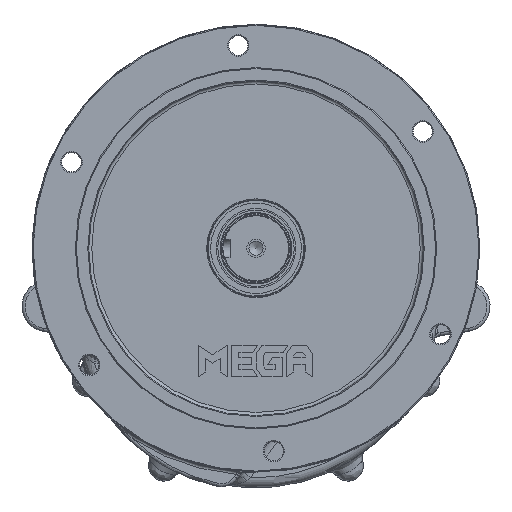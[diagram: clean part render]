
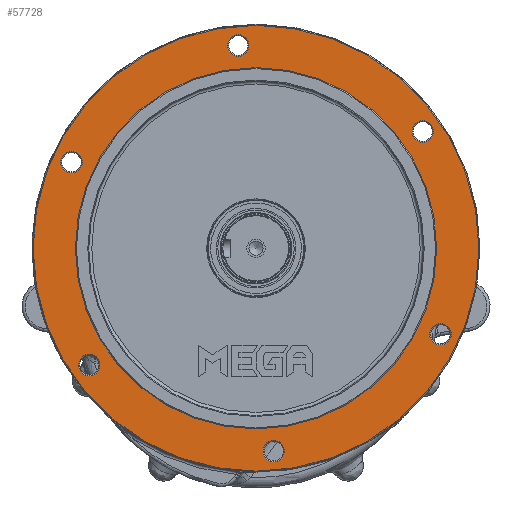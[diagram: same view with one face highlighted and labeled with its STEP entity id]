
A CAD part, front view. The second image highlights one B-rep face of the part: STEP entity #57728.
In plain terms, the highlighted planar face has unit normal (0, -1, 0).
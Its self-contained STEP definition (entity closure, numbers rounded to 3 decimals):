
#1163=FACE_BOUND('',#8620,.T.);
#1164=FACE_BOUND('',#8621,.T.);
#1165=FACE_BOUND('',#8622,.T.);
#1166=FACE_BOUND('',#8623,.T.);
#1167=FACE_BOUND('',#8624,.T.);
#1168=FACE_BOUND('',#8625,.T.);
#1169=FACE_BOUND('',#8626,.T.);
#2572=PLANE('',#62947);
#5043=FACE_OUTER_BOUND('',#8619,.T.);
#8619=EDGE_LOOP('',(#45481));
#8620=EDGE_LOOP('',(#45482));
#8621=EDGE_LOOP('',(#45483));
#8622=EDGE_LOOP('',(#45484));
#8623=EDGE_LOOP('',(#45485));
#8624=EDGE_LOOP('',(#45486));
#8625=EDGE_LOOP('',(#45487));
#8626=EDGE_LOOP('',(#45488));
#12156=CIRCLE('',#62768,219.);
#12159=CIRCLE('',#62773,177.5);
#12234=CIRCLE('',#62913,10.5);
#12245=CIRCLE('',#62928,10.5);
#12248=CIRCLE('',#62933,10.5);
#12251=CIRCLE('',#62938,10.5);
#12254=CIRCLE('',#62943,10.5);
#12257=CIRCLE('',#62948,10.5);
#24648=VERTEX_POINT('',#112818);
#24651=VERTEX_POINT('',#112827);
#24789=VERTEX_POINT('',#114677);
#24797=VERTEX_POINT('',#114702);
#24800=VERTEX_POINT('',#114712);
#24803=VERTEX_POINT('',#114722);
#24806=VERTEX_POINT('',#114732);
#24809=VERTEX_POINT('',#114742);
#31678=EDGE_CURVE('',#24648,#24648,#12156,.T.);
#31682=EDGE_CURVE('',#24651,#24651,#12159,.T.);
#31925=EDGE_CURVE('',#24789,#24789,#12234,.T.);
#31938=EDGE_CURVE('',#24797,#24797,#12245,.T.);
#31943=EDGE_CURVE('',#24800,#24800,#12248,.T.);
#31948=EDGE_CURVE('',#24803,#24803,#12251,.T.);
#31953=EDGE_CURVE('',#24806,#24806,#12254,.T.);
#31958=EDGE_CURVE('',#24809,#24809,#12257,.T.);
#45481=ORIENTED_EDGE('',*,*,#31678,.F.);
#45482=ORIENTED_EDGE('',*,*,#31953,.F.);
#45483=ORIENTED_EDGE('',*,*,#31943,.F.);
#45484=ORIENTED_EDGE('',*,*,#31925,.F.);
#45485=ORIENTED_EDGE('',*,*,#31682,.F.);
#45486=ORIENTED_EDGE('',*,*,#31938,.F.);
#45487=ORIENTED_EDGE('',*,*,#31948,.F.);
#45488=ORIENTED_EDGE('',*,*,#31958,.F.);
#57728=ADVANCED_FACE('',(#5043,#1163,#1164,#1165,#1166,#1167,#1168,#1169),
#2572,.T.);
#62768=AXIS2_PLACEMENT_3D('',#112820,#74767,#74768);
#62773=AXIS2_PLACEMENT_3D('',#112829,#74778,#74779);
#62913=AXIS2_PLACEMENT_3D('',#114678,#75149,#75150);
#62928=AXIS2_PLACEMENT_3D('',#114703,#75181,#75182);
#62933=AXIS2_PLACEMENT_3D('',#114713,#75193,#75194);
#62938=AXIS2_PLACEMENT_3D('',#114723,#75205,#75206);
#62943=AXIS2_PLACEMENT_3D('',#114733,#75217,#75218);
#62947=AXIS2_PLACEMENT_3D('',#114741,#75227,#75228);
#62948=AXIS2_PLACEMENT_3D('',#114743,#75229,#75230);
#74767=DIRECTION('center_axis',(0.,1.,0.));
#74768=DIRECTION('ref_axis',(-1.,0.,0.));
#74778=DIRECTION('center_axis',(0.,-1.,0.));
#74779=DIRECTION('ref_axis',(-1.,0.,0.));
#75149=DIRECTION('center_axis',(0.,-1.,0.));
#75150=DIRECTION('ref_axis',(-1.,0.,0.));
#75181=DIRECTION('center_axis',(0.,-1.,0.));
#75182=DIRECTION('ref_axis',(-0.5,0.,0.866));
#75193=DIRECTION('center_axis',(0.,-1.,0.));
#75194=DIRECTION('ref_axis',(0.5,0.,0.866));
#75205=DIRECTION('center_axis',(0.,-1.,0.));
#75206=DIRECTION('ref_axis',(1.,0.,0.));
#75217=DIRECTION('center_axis',(0.,-1.,0.));
#75218=DIRECTION('ref_axis',(0.5,0.,-0.866));
#75227=DIRECTION('center_axis',(0.,-1.,0.));
#75228=DIRECTION('ref_axis',(0.,0.,-1.));
#75229=DIRECTION('center_axis',(0.,-1.,0.));
#75230=DIRECTION('ref_axis',(-0.5,0.,-0.866));
#112818=CARTESIAN_POINT('',(219.228,-228.728,55.25));
#112820=CARTESIAN_POINT('Origin',(0.228,-228.728,55.25));
#112827=CARTESIAN_POINT('',(177.728,-228.728,55.25));
#112829=CARTESIAN_POINT('Origin',(0.228,-228.728,55.25));
#114677=CARTESIAN_POINT('',(-6.703,-228.728,254.489));
#114678=CARTESIAN_POINT('Origin',(-17.203,-228.728,254.489));
#114702=CARTESIAN_POINT('',(169.309,-228.728,160.872));
#114703=CARTESIAN_POINT('Origin',(164.059,-228.728,169.965));
#114712=CARTESIAN_POINT('',(176.24,-228.728,-38.367));
#114713=CARTESIAN_POINT('Origin',(181.49,-228.728,-29.274));
#114722=CARTESIAN_POINT('',(7.16,-228.728,-143.989));
#114723=CARTESIAN_POINT('Origin',(17.66,-228.728,-143.989));
#114732=CARTESIAN_POINT('',(-168.852,-228.728,-50.372));
#114733=CARTESIAN_POINT('Origin',(-163.602,-228.728,-59.465));
#114741=CARTESIAN_POINT('Origin',(0.228,-228.728,55.25));
#114742=CARTESIAN_POINT('',(-175.783,-228.728,148.867));
#114743=CARTESIAN_POINT('Origin',(-181.033,-228.728,139.774));
